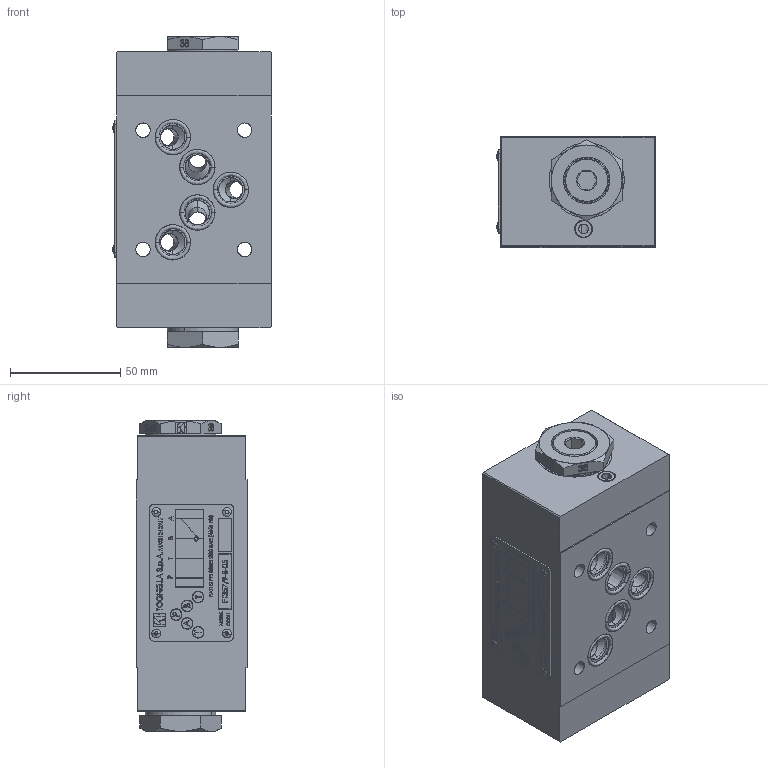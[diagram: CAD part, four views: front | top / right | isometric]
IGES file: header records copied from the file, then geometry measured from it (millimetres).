
Start section: SolidWorks IGES file using analytic representation for surfaces
Global section: file name: C:\Users\pc-te25\Desktop\357-9-B-05.IGS; native system: SolidWorks 2018; preprocessor: SolidWorks 2018; author: pc-te25; date: 191204.091832; units: millimetre
Bounding box: 71.66 x 50.58 x 140.6 mm (x, y, z)
Surface area: 54260.4 mm2 (no closed solid volume)
Topology: 0 solids, 0 shells, 750 faces, 14440 edges, 14434 vertices
Faces by surface type: bspline 559, revolution 191
